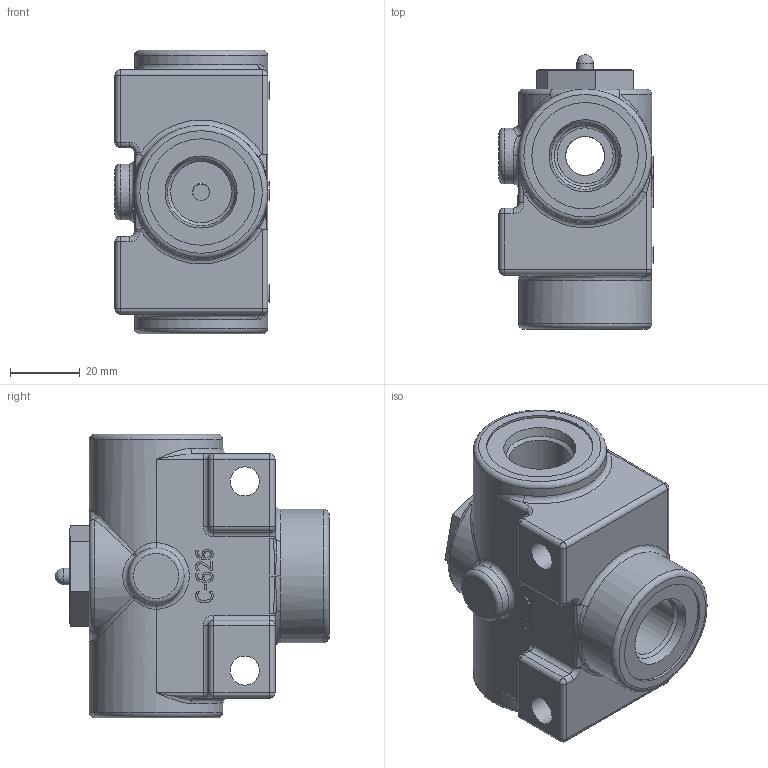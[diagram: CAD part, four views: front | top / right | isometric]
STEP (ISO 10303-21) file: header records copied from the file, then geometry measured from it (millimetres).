
FILE_DESCRIPTION((''),'2;1');
FILE_NAME('C:\Vault\Workspace\AssembliesCylinders\Standards\PM-SC-10.stp','2010-05-27T15:29:27',('kneifld'),(''),'Autodesk Inventor 2010','Autodesk Inventor 2010','');
FILE_SCHEMA(('AUTOMOTIVE_DESIGN { 1 0 10303 214 1 1 1 1 }'));
Length unit declared in the file: inch
Products named in the file (1): 626264001
Bounding box: 44.07 x 78.44 x 81.03 mm (x, y, z)
Volume: 130272.5 mm3; surface area: 30000.3 mm2
Topology: 1 solids, 1 shells, 394 faces, 1009 edges, 626 vertices
Faces by surface type: bspline 167, plane 151, cylinder 46, sphere 11, torus 10, cone 9
Full cylindrical faces by diameter (mm): 4.775 x1, 4.902 x1, 11.176 x2, 16.002 x1, 20.345 x1, 25.4 x1, 30.429 x3, 34.392 x1, 38.1 x3
Entity records: 15379 total; most frequent: CARTESIAN_POINT 6695, ORIENTED_EDGE 1878, DIRECTION 1319, EDGE_CURVE 939, VERTEX_POINT 613, VECTOR 485, LINE 485, EDGE_LOOP 470
